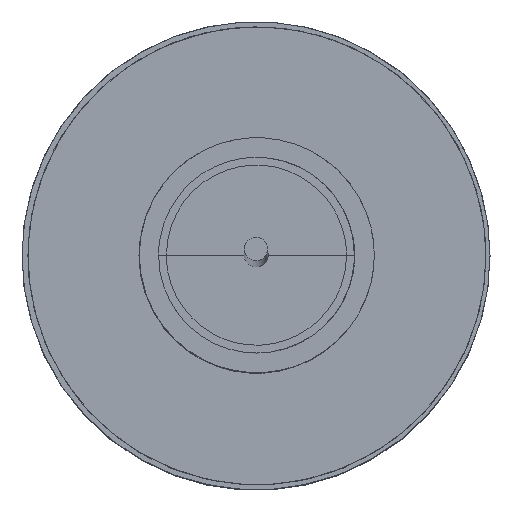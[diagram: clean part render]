
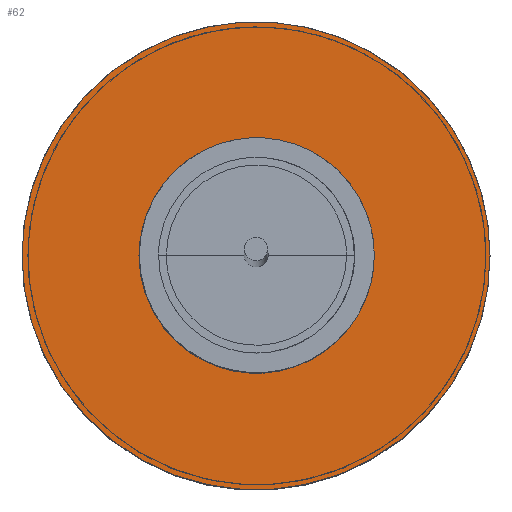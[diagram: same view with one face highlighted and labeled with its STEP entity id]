
A CAD part, top view. The second image highlights one B-rep face of the part: STEP entity #62.
In plain terms, the highlighted free-form (B-spline) face has degree [1, 1] with [2, 2] control points.
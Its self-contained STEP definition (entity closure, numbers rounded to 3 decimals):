
#29=FACE_BOUND('',#137,.T.);
#62=ADVANCED_FACE('',(#98,#29),#972,.T.);
#98=FACE_OUTER_BOUND('',#136,.T.);
#136=EDGE_LOOP('',(#208));
#137=EDGE_LOOP('',(#209));
#208=ORIENTED_EDGE('',*,*,#786,.T.);
#209=ORIENTED_EDGE('',*,*,#787,.T.);
#340=PCURVE('',#972,#472);
#341=PCURVE('',#972,#473);
#472=DEFINITIONAL_REPRESENTATION('',(#875),#2079);
#473=DEFINITIONAL_REPRESENTATION('',(#877),#2079);
#710=SURFACE_CURVE('',#874,(#340),.PCURVE_S1.);
#711=SURFACE_CURVE('',#876,(#341),.PCURVE_S1.);
#786=EDGE_CURVE('',#936,#936,#710,.T.);
#787=EDGE_CURVE('',#937,#937,#711,.T.);
#874=(
BOUNDED_CURVE()
B_SPLINE_CURVE(2,(#1371,#1372,#1373,#1374,#1375,#1376,#1377,#1378,#1379),
 .UNSPECIFIED.,.T.,.F.)
B_SPLINE_CURVE_WITH_KNOTS((3,2,2,2,3),(-439.273,-329.455,
-219.637,-109.818,0.),.UNSPECIFIED.)
CURVE()
GEOMETRIC_REPRESENTATION_ITEM()
RATIONAL_B_SPLINE_CURVE((1.,0.707,1.,0.707,1.,0.707,
1.,0.707,1.))
REPRESENTATION_ITEM('')
);
#875=(
BOUNDED_CURVE()
B_SPLINE_CURVE(2,(#1380,#1381,#1382,#1383,#1384,#1385,#1386,#1387,#1388),
 .UNSPECIFIED.,.T.,.F.)
B_SPLINE_CURVE_WITH_KNOTS((3,2,2,2,3),(-439.273,-329.455,
-219.637,-109.818,0.),.UNSPECIFIED.)
CURVE()
GEOMETRIC_REPRESENTATION_ITEM()
RATIONAL_B_SPLINE_CURVE((1.,0.707,1.,0.707,1.,0.707,
1.,0.707,1.))
REPRESENTATION_ITEM('')
);
#876=(
BOUNDED_CURVE()
B_SPLINE_CURVE(2,(#1389,#1390,#1391,#1392,#1393,#1394,#1395,#1396,#1397),
 .UNSPECIFIED.,.T.,.F.)
B_SPLINE_CURVE_WITH_KNOTS((3,2,2,2,3),(-219.911,-164.934,
-109.956,-54.978,0.),.UNSPECIFIED.)
CURVE()
GEOMETRIC_REPRESENTATION_ITEM()
RATIONAL_B_SPLINE_CURVE((1.,0.707,1.,0.707,1.,0.707,
1.,0.707,1.))
REPRESENTATION_ITEM('')
);
#877=(
BOUNDED_CURVE()
B_SPLINE_CURVE(2,(#1398,#1399,#1400,#1401,#1402,#1403,#1404,#1405,#1406),
 .UNSPECIFIED.,.T.,.F.)
B_SPLINE_CURVE_WITH_KNOTS((3,2,2,2,3),(-219.911,-164.934,
-109.956,-54.978,0.),.UNSPECIFIED.)
CURVE()
GEOMETRIC_REPRESENTATION_ITEM()
RATIONAL_B_SPLINE_CURVE((1.,0.707,1.,0.707,1.,0.707,
1.,0.707,1.))
REPRESENTATION_ITEM('')
);
#936=VERTEX_POINT('',#1369);
#937=VERTEX_POINT('',#1370);
#972=B_SPLINE_SURFACE_WITH_KNOTS('',1,1,((#1365,#1366),(#1367,#1368)),
 .UNSPECIFIED.,.F.,.F.,.F.,(2,2),(2,2),(-87.391,87.391),
(-87.391,87.391),.UNSPECIFIED.);
#1365=CARTESIAN_POINT('',(11.886,74.699,-33.728));
#1366=CARTESIAN_POINT('',(161.285,74.699,-33.728));
#1367=CARTESIAN_POINT('',(11.886,-74.701,-33.728));
#1368=CARTESIAN_POINT('',(161.285,-74.701,-33.728));
#1369=CARTESIAN_POINT('',(146.345,-0.001,-33.728));
#1370=CARTESIAN_POINT('',(114.562,-0.001,-33.728));
#1371=CARTESIAN_POINT('',(146.345,-0.001,-33.728));
#1372=CARTESIAN_POINT('',(146.345,59.759,-33.728));
#1373=CARTESIAN_POINT('',(86.585,59.759,-33.728));
#1374=CARTESIAN_POINT('',(26.825,59.759,-33.728));
#1375=CARTESIAN_POINT('',(26.825,-0.001,-33.728));
#1376=CARTESIAN_POINT('',(26.825,-59.761,-33.728));
#1377=CARTESIAN_POINT('',(86.585,-59.761,-33.728));
#1378=CARTESIAN_POINT('',(146.345,-59.761,-33.728));
#1379=CARTESIAN_POINT('',(146.345,-0.001,-33.728));
#1380=CARTESIAN_POINT('',(0.,69.912));
#1381=CARTESIAN_POINT('',(-69.912,69.912));
#1382=CARTESIAN_POINT('',(-69.912,0.));
#1383=CARTESIAN_POINT('',(-69.912,-69.912));
#1384=CARTESIAN_POINT('',(0.,-69.912));
#1385=CARTESIAN_POINT('',(69.912,-69.912));
#1386=CARTESIAN_POINT('',(69.912,0.));
#1387=CARTESIAN_POINT('',(69.912,69.912));
#1388=CARTESIAN_POINT('',(0.,69.912));
#1389=CARTESIAN_POINT('',(114.562,-0.001,-33.728));
#1390=CARTESIAN_POINT('',(114.562,-27.954,-33.728));
#1391=CARTESIAN_POINT('',(86.609,-27.954,-33.728));
#1392=CARTESIAN_POINT('',(58.656,-27.954,-33.728));
#1393=CARTESIAN_POINT('',(58.656,-0.001,-33.728));
#1394=CARTESIAN_POINT('',(58.656,27.952,-33.728));
#1395=CARTESIAN_POINT('',(86.609,27.952,-33.728));
#1396=CARTESIAN_POINT('',(114.562,27.952,-33.728));
#1397=CARTESIAN_POINT('',(114.562,-0.001,-33.728));
#1398=CARTESIAN_POINT('',(0.,32.73));
#1399=CARTESIAN_POINT('',(32.702,32.73));
#1400=CARTESIAN_POINT('',(32.702,0.028));
#1401=CARTESIAN_POINT('',(32.702,-32.674));
#1402=CARTESIAN_POINT('',(0.,-32.674));
#1403=CARTESIAN_POINT('',(-32.702,-32.674));
#1404=CARTESIAN_POINT('',(-32.702,0.028));
#1405=CARTESIAN_POINT('',(-32.702,32.73));
#1406=CARTESIAN_POINT('',(0.,32.73));
#2079=(
GEOMETRIC_REPRESENTATION_CONTEXT(2)
PARAMETRIC_REPRESENTATION_CONTEXT()
REPRESENTATION_CONTEXT('pspace','')
);
